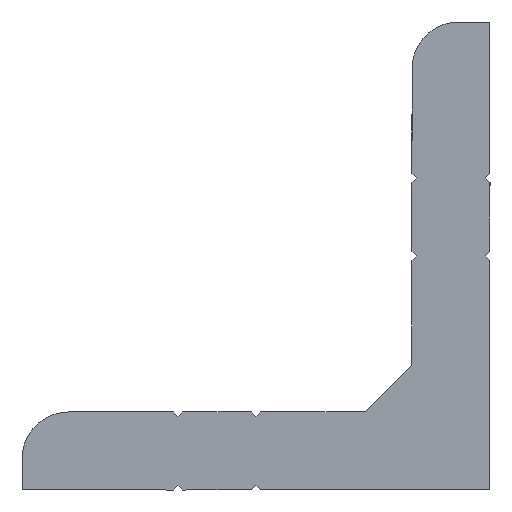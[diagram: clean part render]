
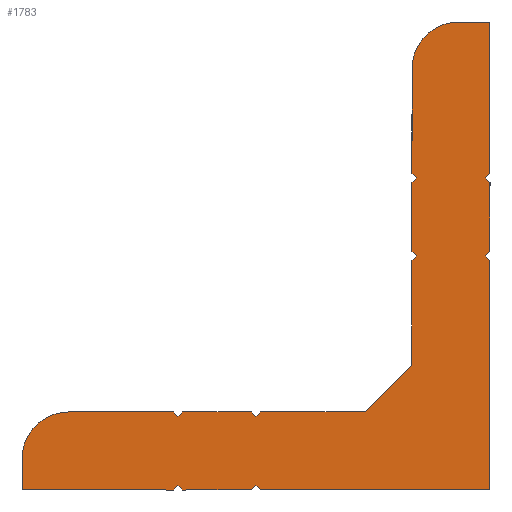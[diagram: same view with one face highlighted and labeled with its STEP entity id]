
A CAD part, left-side view. The second image highlights one B-rep face of the part: STEP entity #1783.
In plain terms, the highlighted planar face has unit normal (-1, 0, 0).
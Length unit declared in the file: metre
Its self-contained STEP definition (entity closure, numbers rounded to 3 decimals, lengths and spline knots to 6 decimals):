
#100=FACE_OUTER_BOUND('',#192,.T.);
#192=EDGE_LOOP('',(#1305,#1306,#1307,#1308,#1309,#1310,#1311,#1312,#1313,
#1314,#1315,#1316,#1317,#1318,#1319,#1320,#1321,#1322,#1323,#1324,#1325,
#1326,#1327,#1328,#1329,#1330,#1331,#1332,#1333,#1334,#1335,#1336,#1337));
#281=CIRCLE('',#1889,0.003);
#286=CIRCLE('',#1898,0.003);
#292=LINE('',#2563,#489);
#299=LINE('',#2584,#496);
#306=LINE('',#2605,#503);
#315=LINE('',#2629,#512);
#321=LINE('',#2649,#518);
#323=LINE('',#2654,#520);
#337=LINE('',#2685,#534);
#360=LINE('',#2742,#557);
#362=LINE('',#2746,#559);
#368=LINE('',#2764,#565);
#372=LINE('',#2776,#569);
#378=LINE('',#2794,#575);
#383=LINE('',#2803,#580);
#385=LINE('',#2812,#582);
#390=LINE('',#2822,#587);
#410=LINE('',#2861,#607);
#411=LINE('',#2862,#608);
#412=LINE('',#2864,#609);
#413=LINE('',#2865,#610);
#414=LINE('',#2867,#611);
#415=LINE('',#2868,#612);
#416=LINE('',#2870,#613);
#417=LINE('',#2871,#614);
#418=LINE('',#2873,#615);
#419=LINE('',#2874,#616);
#420=LINE('',#2876,#617);
#421=LINE('',#2877,#618);
#422=LINE('',#2879,#619);
#423=LINE('',#2880,#620);
#424=LINE('',#2882,#621);
#425=LINE('',#2883,#622);
#489=VECTOR('',#2027,0.0044);
#496=VECTOR('',#2042,0.0067);
#503=VECTOR('',#2057,0.0147);
#512=VECTOR('',#2074,0.0044);
#518=VECTOR('',#2088,0.0097);
#520=VECTOR('',#2092,0.0044);
#534=VECTOR('',#2112,0.0044);
#557=VECTOR('',#2151,0.0067);
#559=VECTOR('',#2155,0.0147);
#565=VECTOR('',#2169,0.002);
#569=VECTOR('',#2181,0.0067);
#575=VECTOR('',#2195,0.004243);
#580=VECTOR('',#2202,0.0067);
#582=VECTOR('',#2212,0.002);
#587=VECTOR('',#2219,0.0097);
#607=VECTOR('',#2249,0.000424);
#608=VECTOR('',#2250,0.000424);
#609=VECTOR('',#2251,0.000424);
#610=VECTOR('',#2252,0.000424);
#611=VECTOR('',#2253,0.000424);
#612=VECTOR('',#2254,0.000424);
#613=VECTOR('',#2255,0.000424);
#614=VECTOR('',#2256,0.000424);
#615=VECTOR('',#2257,0.000424);
#616=VECTOR('',#2258,0.000424);
#617=VECTOR('',#2259,0.000424);
#618=VECTOR('',#2260,0.000424);
#619=VECTOR('',#2261,0.000424);
#620=VECTOR('',#2262,0.000424);
#621=VECTOR('',#2263,0.000424);
#622=VECTOR('',#2264,0.000424);
#686=VERTEX_POINT('',#2560);
#687=VERTEX_POINT('',#2562);
#696=VERTEX_POINT('',#2581);
#697=VERTEX_POINT('',#2583);
#706=VERTEX_POINT('',#2602);
#707=VERTEX_POINT('',#2604);
#710=VERTEX_POINT('',#2611);
#718=VERTEX_POINT('',#2627);
#727=VERTEX_POINT('',#2646);
#728=VERTEX_POINT('',#2648);
#729=VERTEX_POINT('',#2652);
#730=VERTEX_POINT('',#2653);
#743=VERTEX_POINT('',#2682);
#744=VERTEX_POINT('',#2684);
#769=VERTEX_POINT('',#2739);
#770=VERTEX_POINT('',#2741);
#771=VERTEX_POINT('',#2745);
#779=VERTEX_POINT('',#2763);
#781=VERTEX_POINT('',#2769);
#783=VERTEX_POINT('',#2775);
#791=VERTEX_POINT('',#2793);
#794=VERTEX_POINT('',#2800);
#795=VERTEX_POINT('',#2805);
#797=VERTEX_POINT('',#2811);
#801=VERTEX_POINT('',#2821);
#815=VERTEX_POINT('',#2860);
#816=VERTEX_POINT('',#2863);
#817=VERTEX_POINT('',#2866);
#818=VERTEX_POINT('',#2869);
#819=VERTEX_POINT('',#2872);
#820=VERTEX_POINT('',#2875);
#821=VERTEX_POINT('',#2878);
#822=VERTEX_POINT('',#2881);
#860=EDGE_CURVE('',#687,#686,#292,.T.);
#870=EDGE_CURVE('',#697,#696,#299,.T.);
#880=EDGE_CURVE('',#707,#706,#306,.T.);
#892=EDGE_CURVE('',#710,#718,#315,.T.);
#901=EDGE_CURVE('',#727,#728,#321,.T.);
#903=EDGE_CURVE('',#729,#730,#323,.T.);
#917=EDGE_CURVE('',#743,#744,#337,.T.);
#943=EDGE_CURVE('',#769,#770,#360,.T.);
#945=EDGE_CURVE('',#707,#771,#362,.T.);
#954=EDGE_CURVE('',#728,#779,#368,.T.);
#957=EDGE_CURVE('',#781,#779,#281,.T.);
#960=EDGE_CURVE('',#781,#783,#372,.T.);
#969=EDGE_CURVE('',#770,#791,#378,.T.);
#974=EDGE_CURVE('',#794,#791,#383,.T.);
#975=EDGE_CURVE('',#697,#795,#286,.F.);
#978=EDGE_CURVE('',#797,#795,#385,.T.);
#983=EDGE_CURVE('',#801,#797,#390,.T.);
#1006=EDGE_CURVE('',#815,#686,#410,.T.);
#1007=EDGE_CURVE('',#794,#815,#411,.T.);
#1008=EDGE_CURVE('',#816,#769,#412,.T.);
#1009=EDGE_CURVE('',#744,#816,#413,.T.);
#1010=EDGE_CURVE('',#817,#743,#414,.T.);
#1011=EDGE_CURVE('',#783,#817,#415,.T.);
#1012=EDGE_CURVE('',#818,#727,#416,.T.);
#1013=EDGE_CURVE('',#730,#818,#417,.T.);
#1014=EDGE_CURVE('',#819,#729,#418,.T.);
#1015=EDGE_CURVE('',#771,#819,#419,.T.);
#1016=EDGE_CURVE('',#820,#706,#420,.T.);
#1017=EDGE_CURVE('',#710,#820,#421,.T.);
#1018=EDGE_CURVE('',#821,#718,#422,.T.);
#1019=EDGE_CURVE('',#801,#821,#423,.T.);
#1020=EDGE_CURVE('',#822,#696,#424,.T.);
#1021=EDGE_CURVE('',#687,#822,#425,.T.);
#1305=ORIENTED_EDGE('',*,*,#1006,.F.);
#1306=ORIENTED_EDGE('',*,*,#1007,.F.);
#1307=ORIENTED_EDGE('',*,*,#974,.T.);
#1308=ORIENTED_EDGE('',*,*,#969,.F.);
#1309=ORIENTED_EDGE('',*,*,#943,.F.);
#1310=ORIENTED_EDGE('',*,*,#1008,.F.);
#1311=ORIENTED_EDGE('',*,*,#1009,.F.);
#1312=ORIENTED_EDGE('',*,*,#917,.F.);
#1313=ORIENTED_EDGE('',*,*,#1010,.F.);
#1314=ORIENTED_EDGE('',*,*,#1011,.F.);
#1315=ORIENTED_EDGE('',*,*,#960,.F.);
#1316=ORIENTED_EDGE('',*,*,#957,.T.);
#1317=ORIENTED_EDGE('',*,*,#954,.F.);
#1318=ORIENTED_EDGE('',*,*,#901,.F.);
#1319=ORIENTED_EDGE('',*,*,#1012,.F.);
#1320=ORIENTED_EDGE('',*,*,#1013,.F.);
#1321=ORIENTED_EDGE('',*,*,#903,.F.);
#1322=ORIENTED_EDGE('',*,*,#1014,.F.);
#1323=ORIENTED_EDGE('',*,*,#1015,.F.);
#1324=ORIENTED_EDGE('',*,*,#945,.F.);
#1325=ORIENTED_EDGE('',*,*,#880,.T.);
#1326=ORIENTED_EDGE('',*,*,#1016,.F.);
#1327=ORIENTED_EDGE('',*,*,#1017,.F.);
#1328=ORIENTED_EDGE('',*,*,#892,.T.);
#1329=ORIENTED_EDGE('',*,*,#1018,.F.);
#1330=ORIENTED_EDGE('',*,*,#1019,.F.);
#1331=ORIENTED_EDGE('',*,*,#983,.T.);
#1332=ORIENTED_EDGE('',*,*,#978,.T.);
#1333=ORIENTED_EDGE('',*,*,#975,.F.);
#1334=ORIENTED_EDGE('',*,*,#870,.T.);
#1335=ORIENTED_EDGE('',*,*,#1020,.F.);
#1336=ORIENTED_EDGE('',*,*,#1021,.F.);
#1337=ORIENTED_EDGE('',*,*,#860,.T.);
#1700=PLANE('',#1906);
#1783=ADVANCED_FACE('',(#100),#1700,.T.);
#1889=AXIS2_PLACEMENT_3D('',#2770,#2174,#2175);
#1898=AXIS2_PLACEMENT_3D('',#2806,#2205,#2206);
#1906=AXIS2_PLACEMENT_3D('',#2859,#2247,#2248);
#2027=DIRECTION('',(0.,0.,-1.));
#2042=DIRECTION('',(0.,0.,-1.));
#2057=DIRECTION('',(0.,0.,1.));
#2074=DIRECTION('',(0.,0.,1.));
#2088=DIRECTION('',(0.,1.,0.));
#2092=DIRECTION('',(0.,1.,0.));
#2112=DIRECTION('',(0.,-1.,0.));
#2151=DIRECTION('',(0.,-1.,0.));
#2155=DIRECTION('',(0.,1.,0.));
#2169=DIRECTION('',(0.,0.,1.));
#2174=DIRECTION('center_axis',(-1.,0.,0.));
#2175=DIRECTION('ref_axis',(0.,-1.,0.));
#2181=DIRECTION('',(0.,-1.,0.));
#2195=DIRECTION('',(0.,-0.707,0.707));
#2202=DIRECTION('',(0.,0.,-1.));
#2205=DIRECTION('center_axis',(-1.,0.,0.));
#2206=DIRECTION('ref_axis',(0.,-1.,0.));
#2212=DIRECTION('',(0.,1.,0.));
#2219=DIRECTION('',(0.,0.,1.));
#2247=DIRECTION('center_axis',(-1.,0.,0.));
#2248=DIRECTION('ref_axis',(0.,0.,1.));
#2249=DIRECTION('',(0.,0.707,0.707));
#2250=DIRECTION('',(0.,-0.707,0.707));
#2251=DIRECTION('',(0.,-0.707,0.707));
#2252=DIRECTION('',(0.,-0.707,-0.707));
#2253=DIRECTION('',(0.,-0.707,0.707));
#2254=DIRECTION('',(0.,-0.707,-0.707));
#2255=DIRECTION('',(0.,0.707,-0.707));
#2256=DIRECTION('',(0.,0.707,0.707));
#2257=DIRECTION('',(0.,0.707,-0.707));
#2258=DIRECTION('',(0.,0.707,0.707));
#2259=DIRECTION('',(0.,-0.707,-0.707));
#2260=DIRECTION('',(0.,0.707,-0.707));
#2261=DIRECTION('',(0.,-0.707,-0.707));
#2262=DIRECTION('',(0.,0.707,-0.707));
#2263=DIRECTION('',(0.,0.707,0.707));
#2264=DIRECTION('',(0.,-0.707,0.707));
#2560=CARTESIAN_POINT('',(-0.0425,0.005,0.0153));
#2562=CARTESIAN_POINT('',(-0.0425,0.005,0.0197));
#2563=CARTESIAN_POINT('',(-0.0425,0.005,0.0197));
#2581=CARTESIAN_POINT('',(-0.0425,0.005,0.0203));
#2583=CARTESIAN_POINT('',(-0.0425,0.005,0.027));
#2584=CARTESIAN_POINT('',(-0.0425,0.005,0.027));
#2602=CARTESIAN_POINT('',(-0.0425,0.,0.0147));
#2604=CARTESIAN_POINT('',(-0.0425,0.,0.));
#2605=CARTESIAN_POINT('',(-0.0425,0.,0.));
#2611=CARTESIAN_POINT('',(-0.0425,0.,0.0153));
#2627=CARTESIAN_POINT('',(-0.0425,0.,0.0197));
#2629=CARTESIAN_POINT('',(-0.0425,0.,0.0153));
#2646=CARTESIAN_POINT('',(-0.0425,0.0203,0.));
#2648=CARTESIAN_POINT('',(-0.0425,0.03,0.));
#2649=CARTESIAN_POINT('',(-0.0425,0.0203,0.));
#2652=CARTESIAN_POINT('',(-0.0425,0.0153,0.));
#2653=CARTESIAN_POINT('',(-0.0425,0.0197,0.));
#2654=CARTESIAN_POINT('',(-0.0425,0.0153,0.));
#2682=CARTESIAN_POINT('',(-0.0425,0.0197,0.005));
#2684=CARTESIAN_POINT('',(-0.0425,0.0153,0.005));
#2685=CARTESIAN_POINT('',(-0.0425,0.0197,0.005));
#2739=CARTESIAN_POINT('',(-0.0425,0.0147,0.005));
#2741=CARTESIAN_POINT('',(-0.0425,0.008,0.005));
#2742=CARTESIAN_POINT('',(-0.0425,0.0147,0.005));
#2745=CARTESIAN_POINT('',(-0.0425,0.0147,0.));
#2746=CARTESIAN_POINT('',(-0.0425,0.,0.));
#2763=CARTESIAN_POINT('',(-0.0425,0.03,0.002));
#2764=CARTESIAN_POINT('',(-0.0425,0.03,0.));
#2769=CARTESIAN_POINT('',(-0.0425,0.027,0.005));
#2770=CARTESIAN_POINT('Origin',(-0.0425,0.027,0.002));
#2775=CARTESIAN_POINT('',(-0.0425,0.0203,0.005));
#2776=CARTESIAN_POINT('',(-0.0425,0.027,0.005));
#2793=CARTESIAN_POINT('',(-0.0425,0.005,0.008));
#2794=CARTESIAN_POINT('',(-0.0425,0.008,0.005));
#2800=CARTESIAN_POINT('',(-0.0425,0.005,0.0147));
#2803=CARTESIAN_POINT('',(-0.0425,0.005,0.0147));
#2805=CARTESIAN_POINT('',(-0.0425,0.002,0.03));
#2806=CARTESIAN_POINT('Origin',(-0.0425,0.002,0.027));
#2811=CARTESIAN_POINT('',(-0.0425,0.,0.03));
#2812=CARTESIAN_POINT('',(-0.0425,0.,0.03));
#2821=CARTESIAN_POINT('',(-0.0425,0.,0.0203));
#2822=CARTESIAN_POINT('',(-0.0425,0.,0.0203));
#2859=CARTESIAN_POINT('Origin',(-0.0425,0.,0.));
#2860=CARTESIAN_POINT('',(-0.0425,0.0047,0.015));
#2861=CARTESIAN_POINT('',(-0.0425,0.0047,0.015));
#2862=CARTESIAN_POINT('',(-0.0425,0.005,0.0147));
#2863=CARTESIAN_POINT('',(-0.0425,0.015,0.0047));
#2864=CARTESIAN_POINT('',(-0.0425,0.015,0.0047));
#2865=CARTESIAN_POINT('',(-0.0425,0.0153,0.005));
#2866=CARTESIAN_POINT('',(-0.0425,0.02,0.0047));
#2867=CARTESIAN_POINT('',(-0.0425,0.02,0.0047));
#2868=CARTESIAN_POINT('',(-0.0425,0.0203,0.005));
#2869=CARTESIAN_POINT('',(-0.0425,0.02,0.0003));
#2870=CARTESIAN_POINT('',(-0.0425,0.02,0.0003));
#2871=CARTESIAN_POINT('',(-0.0425,0.0197,0.));
#2872=CARTESIAN_POINT('',(-0.0425,0.015,0.0003));
#2873=CARTESIAN_POINT('',(-0.0425,0.015,0.0003));
#2874=CARTESIAN_POINT('',(-0.0425,0.0147,0.));
#2875=CARTESIAN_POINT('',(-0.0425,0.0003,0.015));
#2876=CARTESIAN_POINT('',(-0.0425,0.0003,0.015));
#2877=CARTESIAN_POINT('',(-0.0425,0.,0.0153));
#2878=CARTESIAN_POINT('',(-0.0425,0.0003,0.02));
#2879=CARTESIAN_POINT('',(-0.0425,0.0003,0.02));
#2880=CARTESIAN_POINT('',(-0.0425,0.,0.0203));
#2881=CARTESIAN_POINT('',(-0.0425,0.0047,0.02));
#2882=CARTESIAN_POINT('',(-0.0425,0.0047,0.02));
#2883=CARTESIAN_POINT('',(-0.0425,0.005,0.0197));
